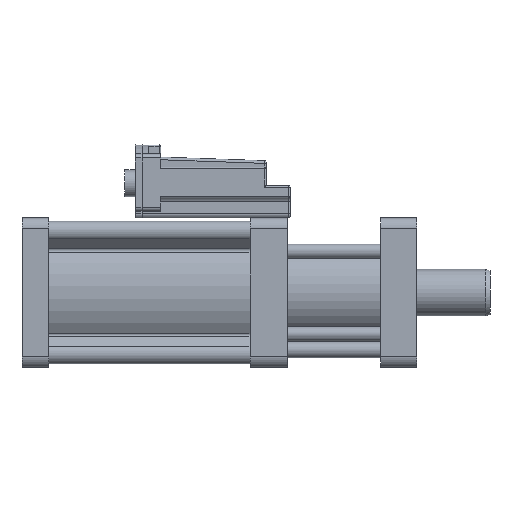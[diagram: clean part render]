
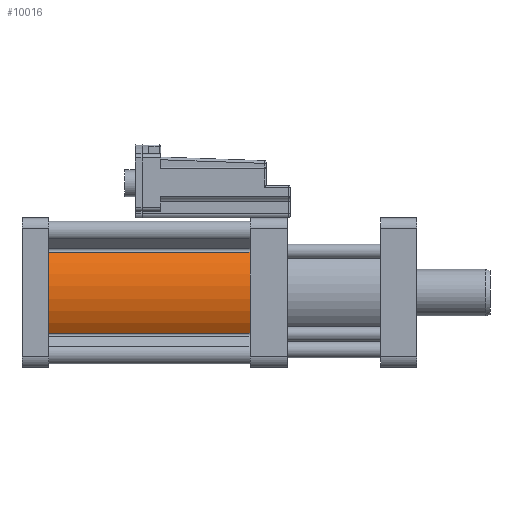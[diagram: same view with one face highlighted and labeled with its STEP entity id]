
A CAD part, left-side view. The second image highlights one B-rep face of the part: STEP entity #10016.
In plain terms, the highlighted cylindrical face has radius 53 mm (diameter 106 mm), a partial arc.
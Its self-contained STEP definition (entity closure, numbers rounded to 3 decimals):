
#25 = CIRCLE ( 'NONE', #6918, 53. ) ;
#110 = DIRECTION ( 'NONE',  ( 0., 0., -1. ) ) ;
#160 = EDGE_LOOP ( 'NONE', ( #9572, #9208, #7768, #9814 ) ) ;
#543 = DIRECTION ( 'NONE',  ( 0., 1., 0. ) ) ;
#1805 = LINE ( 'NONE', #3395, #8023 ) ;
#3250 = CARTESIAN_POINT ( 'NONE',  ( 0., -81., -56. ) ) ;
#3395 = CARTESIAN_POINT ( 'NONE',  ( -43.387, 221.321, -86.44 ) ) ;
#3582 = EDGE_CURVE ( 'NONE', #9400, #12898, #4954, .T. ) ;
#3834 = VERTEX_POINT ( 'NONE', #6437 ) ;
#3958 = CYLINDRICAL_SURFACE ( 'NONE', #8966, 53. ) ;
#4208 = FACE_OUTER_BOUND ( 'NONE', #160, .T. ) ;
#4345 = DIRECTION ( 'NONE',  ( 0., 0., 1. ) ) ;
#4367 = DIRECTION ( 'NONE',  ( 0., -1., 0. ) ) ;
#4954 = CIRCLE ( 'NONE', #10018, 53. ) ;
#5863 = EDGE_CURVE ( 'NONE', #12898, #12940, #11680, .T. ) ;
#6437 = CARTESIAN_POINT ( 'NONE',  ( -43.387, -81., -86.44 ) ) ;
#6918 = AXIS2_PLACEMENT_3D ( 'NONE', #3250, #10968, #4345 ) ;
#7148 = CARTESIAN_POINT ( 'NONE',  ( 0., 70., -56. ) ) ;
#7525 = CARTESIAN_POINT ( 'NONE',  ( -43.387, 70., -86.44 ) ) ;
#7768 = ORIENTED_EDGE ( 'NONE', *, *, #13757, .T. ) ;
#8023 = VECTOR ( 'NONE', #11101, 1000. ) ;
#8267 = DIRECTION ( 'NONE',  ( 0., 0., 1. ) ) ;
#8745 = VECTOR ( 'NONE', #4367, 1000. ) ;
#8958 = CARTESIAN_POINT ( 'NONE',  ( 0., 221.321, -56. ) ) ;
#8966 = AXIS2_PLACEMENT_3D ( 'NONE', #8958, #13326, #110 ) ;
#9208 = ORIENTED_EDGE ( 'NONE', *, *, #12458, .T. ) ;
#9400 = VERTEX_POINT ( 'NONE', #7525 ) ;
#9572 = ORIENTED_EDGE ( 'NONE', *, *, #3582, .F. ) ;
#9814 = ORIENTED_EDGE ( 'NONE', *, *, #5863, .F. ) ;
#10016 = ADVANCED_FACE ( 'NONE', ( #4208 ), #3958, .T. ) ;
#10018 = AXIS2_PLACEMENT_3D ( 'NONE', #7148, #543, #8267 ) ;
#10968 = DIRECTION ( 'NONE',  ( 0., 1., 0. ) ) ;
#10995 = CARTESIAN_POINT ( 'NONE',  ( -43.387, -81., -25.56 ) ) ;
#11101 = DIRECTION ( 'NONE',  ( 0., -1., 0. ) ) ;
#11680 = LINE ( 'NONE', #12098, #8745 ) ;
#12098 = CARTESIAN_POINT ( 'NONE',  ( -43.387, 221.321, -25.56 ) ) ;
#12458 = EDGE_CURVE ( 'NONE', #9400, #3834, #1805, .T. ) ;
#12898 = VERTEX_POINT ( 'NONE', #14162 ) ;
#12940 = VERTEX_POINT ( 'NONE', #10995 ) ;
#13326 = DIRECTION ( 'NONE',  ( 0., -1., 0. ) ) ;
#13757 = EDGE_CURVE ( 'NONE', #3834, #12940, #25, .T. ) ;
#14162 = CARTESIAN_POINT ( 'NONE',  ( -43.387, 70., -25.56 ) ) ;
